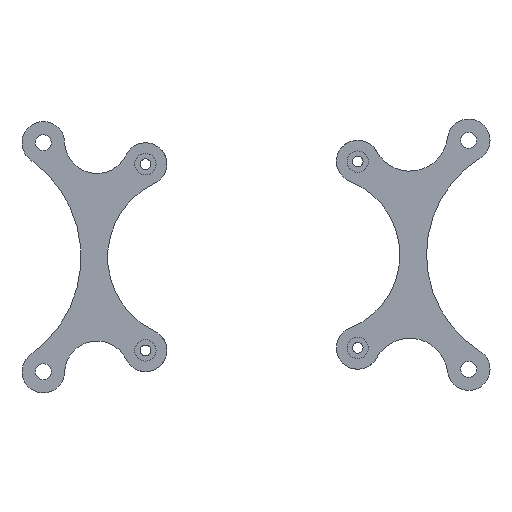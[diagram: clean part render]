
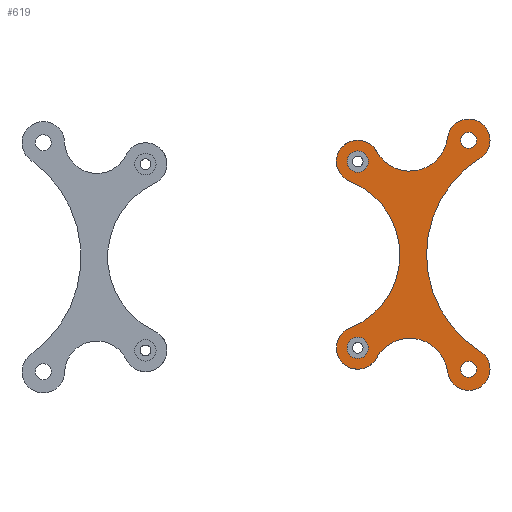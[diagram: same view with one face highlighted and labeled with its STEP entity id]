
A CAD part, front view. The second image highlights one B-rep face of the part: STEP entity #619.
In plain terms, the highlighted planar face has unit normal (0, -1, 0).
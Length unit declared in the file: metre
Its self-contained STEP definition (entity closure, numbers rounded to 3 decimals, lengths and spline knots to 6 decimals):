
#53=PLANE('',#741);
#186=ORIENTED_EDGE('',*,*,#282,.F.);
#187=ORIENTED_EDGE('',*,*,#283,.F.);
#188=ORIENTED_EDGE('',*,*,#252,.T.);
#189=ORIENTED_EDGE('',*,*,#277,.T.);
#190=ORIENTED_EDGE('',*,*,#272,.T.);
#191=ORIENTED_EDGE('',*,*,#268,.F.);
#192=ORIENTED_EDGE('',*,*,#265,.F.);
#193=ORIENTED_EDGE('',*,*,#262,.F.);
#194=ORIENTED_EDGE('',*,*,#259,.T.);
#195=ORIENTED_EDGE('',*,*,#256,.T.);
#196=ORIENTED_EDGE('',*,*,#276,.T.);
#197=ORIENTED_EDGE('',*,*,#281,.F.);
#252=EDGE_CURVE('',#320,#321,#380,.T.);
#256=EDGE_CURVE('',#324,#320,#382,.T.);
#259=EDGE_CURVE('',#326,#324,#384,.T.);
#262=EDGE_CURVE('',#326,#328,#386,.T.);
#265=EDGE_CURVE('',#328,#330,#388,.T.);
#268=EDGE_CURVE('',#330,#332,#390,.T.);
#272=EDGE_CURVE('',#335,#332,#393,.T.);
#276=EDGE_CURVE('',#338,#338,#396,.T.);
#277=EDGE_CURVE('',#321,#335,#397,.T.);
#281=EDGE_CURVE('',#341,#341,#401,.T.);
#282=EDGE_CURVE('',#342,#342,#402,.T.);
#283=EDGE_CURVE('',#343,#343,#403,.T.);
#320=VERTEX_POINT('',#1074);
#321=VERTEX_POINT('',#1075);
#324=VERTEX_POINT('',#1083);
#326=VERTEX_POINT('',#1089);
#328=VERTEX_POINT('',#1095);
#330=VERTEX_POINT('',#1101);
#332=VERTEX_POINT('',#1107);
#335=VERTEX_POINT('',#1115);
#338=VERTEX_POINT('',#1123);
#341=VERTEX_POINT('',#1133);
#342=VERTEX_POINT('',#1137);
#343=VERTEX_POINT('',#1139);
#380=CIRCLE('',#709,0.007151);
#382=CIRCLE('',#712,0.004);
#384=CIRCLE('',#715,0.021344);
#386=CIRCLE('',#718,0.004);
#388=CIRCLE('',#721,0.007151);
#390=CIRCLE('',#724,0.004);
#393=CIRCLE('',#728,0.014803);
#396=CIRCLE('',#732,0.0015);
#397=CIRCLE('',#734,0.004);
#401=CIRCLE('',#739,0.0015);
#402=CIRCLE('',#742,0.002);
#403=CIRCLE('',#743,0.002);
#465=EDGE_LOOP('',(#186));
#466=EDGE_LOOP('',(#187));
#467=EDGE_LOOP('',(#188,#189,#190,#191,#192,#193,#194,#195));
#468=EDGE_LOOP('',(#196));
#469=EDGE_LOOP('',(#197));
#541=FACE_BOUND('',#465,.T.);
#542=FACE_BOUND('',#466,.T.);
#543=FACE_BOUND('',#467,.T.);
#544=FACE_BOUND('',#468,.T.);
#545=FACE_BOUND('',#469,.T.);
#619=ADVANCED_FACE('',(#541,#542,#543,#544,#545),#53,.F.);
#709=AXIS2_PLACEMENT_3D('',#1073,#878,#879);
#712=AXIS2_PLACEMENT_3D('',#1082,#886,#887);
#715=AXIS2_PLACEMENT_3D('',#1088,#893,#894);
#718=AXIS2_PLACEMENT_3D('',#1094,#900,#901);
#721=AXIS2_PLACEMENT_3D('',#1100,#907,#908);
#724=AXIS2_PLACEMENT_3D('',#1106,#914,#915);
#728=AXIS2_PLACEMENT_3D('',#1114,#923,#924);
#732=AXIS2_PLACEMENT_3D('',#1122,#932,#933);
#734=AXIS2_PLACEMENT_3D('',#1125,#936,#937);
#739=AXIS2_PLACEMENT_3D('',#1132,#946,#947);
#741=AXIS2_PLACEMENT_3D('',#1135,#950,#951);
#742=AXIS2_PLACEMENT_3D('',#1136,#952,#953);
#743=AXIS2_PLACEMENT_3D('',#1138,#954,#955);
#878=DIRECTION('',(0.,1.,0.));
#879=DIRECTION('',(1.,0.,0.));
#886=DIRECTION('',(0.,-1.,0.));
#887=DIRECTION('',(1.,0.,0.));
#893=DIRECTION('',(0.,1.,0.));
#894=DIRECTION('',(1.,0.,0.));
#900=DIRECTION('',(0.,1.,0.));
#901=DIRECTION('',(1.,0.,0.));
#907=DIRECTION('',(0.,-1.,0.));
#908=DIRECTION('',(1.,0.,0.));
#914=DIRECTION('',(0.,1.,0.));
#915=DIRECTION('',(1.,0.,0.));
#923=DIRECTION('',(0.,1.,0.));
#924=DIRECTION('',(1.,0.,0.));
#932=DIRECTION('',(0.,1.,0.));
#933=DIRECTION('',(1.,0.,0.));
#936=DIRECTION('',(0.,-1.,0.));
#937=DIRECTION('',(1.,0.,0.));
#946=DIRECTION('',(0.,-1.,0.));
#947=DIRECTION('',(1.,0.,0.));
#950=DIRECTION('',(0.,1.,0.));
#951=DIRECTION('',(1.,0.,0.));
#952=DIRECTION('',(0.,-1.,0.));
#953=DIRECTION('',(-1.,0.,0.));
#954=DIRECTION('',(0.,-1.,0.));
#955=DIRECTION('',(-1.,0.,0.));
#1073=CARTESIAN_POINT('',(0.059259,0.,0.023328));
#1074=CARTESIAN_POINT('',(0.066357,0.,0.02246));
#1075=CARTESIAN_POINT('',(0.052986,0.,0.019895));
#1082=CARTESIAN_POINT('',(0.070327,0.,0.021975));
#1083=CARTESIAN_POINT('',(0.072445,0.,0.018581));
#1088=CARTESIAN_POINT('',(0.083746,0.,0.000475));
#1089=CARTESIAN_POINT('',(0.072445,0.,-0.017632));
#1094=CARTESIAN_POINT('',(0.070327,0.,-0.021025));
#1095=CARTESIAN_POINT('',(0.066357,0.,-0.021511));
#1100=CARTESIAN_POINT('',(0.059259,0.,-0.022379));
#1101=CARTESIAN_POINT('',(0.052986,0.,-0.018946));
#1106=CARTESIAN_POINT('',(0.049477,0.,-0.017025));
#1107=CARTESIAN_POINT('',(0.048014,0.,-0.013303));
#1114=CARTESIAN_POINT('',(0.042599,0.,0.000475));
#1115=CARTESIAN_POINT('',(0.048014,0.,0.014252));
#1122=CARTESIAN_POINT('',(0.070327,0.,0.021975));
#1123=CARTESIAN_POINT('',(0.071827,0.,0.021975));
#1125=CARTESIAN_POINT('',(0.049477,0.,0.017975));
#1132=CARTESIAN_POINT('',(0.070327,0.,-0.021025));
#1133=CARTESIAN_POINT('',(0.071827,0.,-0.021025));
#1135=CARTESIAN_POINT('',(0.061537,0.,-0.001146));
#1136=CARTESIAN_POINT('',(0.049477,0.,-0.017025));
#1137=CARTESIAN_POINT('',(0.047477,0.,-0.017025));
#1138=CARTESIAN_POINT('',(0.049477,0.,0.017975));
#1139=CARTESIAN_POINT('',(0.047477,0.,0.017975));
